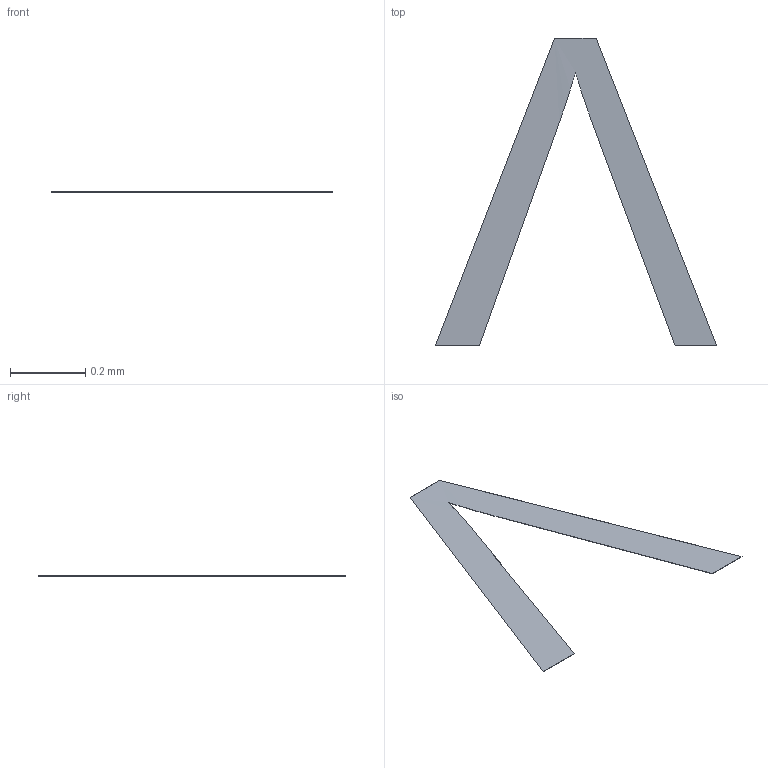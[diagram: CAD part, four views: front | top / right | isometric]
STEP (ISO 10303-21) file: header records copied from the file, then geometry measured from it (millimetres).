
FILE_DESCRIPTION(/* description */ ('STEP AP242 Edition 2','CAx-IF Rec.Pracs.---Representation and Presentation of Product Manufacturing Information (PMI)---4.0---2014-10-13','CAx-IF Rec.Pracs.---3D Tessellated Geometry---0.4---2014-09-14','2;1','CAx-IF Rec.Pracs.---User Defined Attributes---1.5---2016-08-15'),/* implementation_level */ '2;1');
FILE_NAME(/* name */ 'Drone Layout - Surface 354',/* time_stamp */ '2026-10-04T22:22:57Z',/* author */ (''),/* organization */ (''),/* preprocessor_version */ 'ST-DEVELOPER v20',/* originating_system */ 'ONSHAPE BY PTC INC, 1.221',/* authorisation */ ' ');
FILE_SCHEMA (('AP242_MANAGED_MODEL_BASED_3D_ENGINEERING_MIM_LF { 1 0 10303 442 3 1 4 }'));
Length unit declared in the file: metre
Products named in the file (1): VL53L0X:1__Body20
Bounding box: 0.75 x 0.82 x 0 mm (x, y, z)
Volume: 0 mm3; surface area: 0.3 mm2
Topology: 1 solids, 1 shells, 11 faces, 25 edges, 16 vertices
Faces by surface type: plane 9, cylinder 2
Entity records: 320 total; most frequent: DIRECTION 53, CARTESIAN_POINT 53, ORIENTED_EDGE 50, EDGE_CURVE 25, LINE 21, VECTOR 21, VERTEX_POINT 16, AXIS2_PLACEMENT_3D 16
